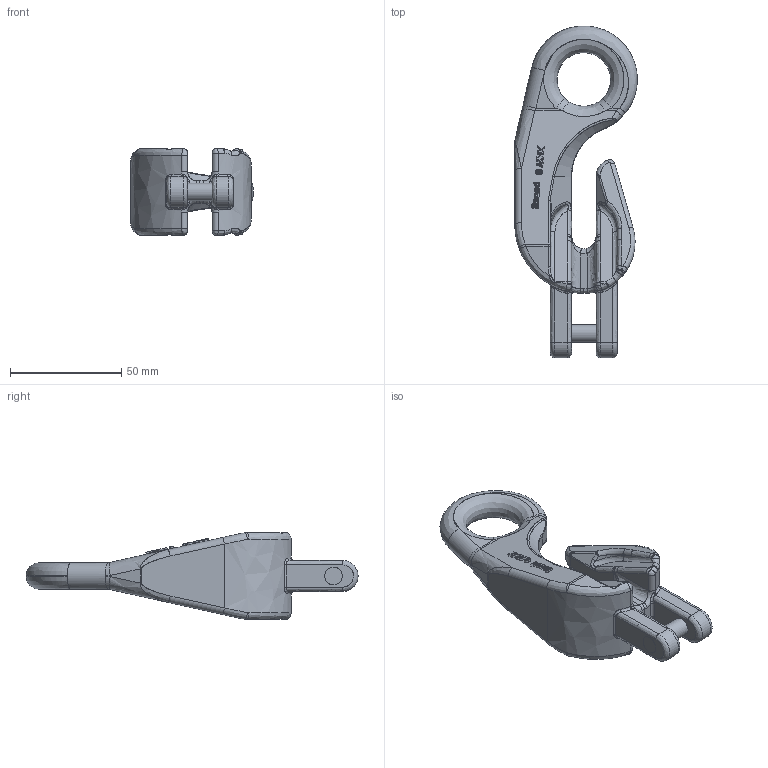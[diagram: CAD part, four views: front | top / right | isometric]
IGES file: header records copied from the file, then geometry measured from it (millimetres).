
Global section: file name: L:\users\SC\3D Kundenmodelle\UG Zg der Ableitung G100\XKW Kundenmodell\XKW 8 Kundenmodell\pewag_XKW_8.igs; native system: NX V4.0; preprocessor: UGS NX IGES V4.0; date: 20100201.095007; units: millimetre
Bounding box: 55 x 149 x 39 mm (x, y, z)
Surface area: 20777.4 mm2 (no closed solid volume)
Topology: 0 solids, 0 shells, 482 faces, 2656 edges, 2636 vertices
Faces by surface type: bspline 482
